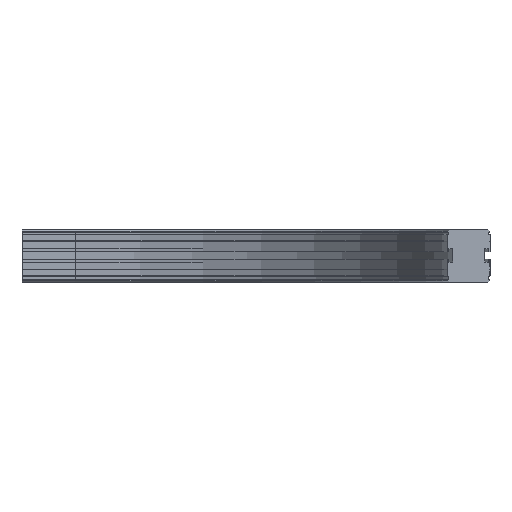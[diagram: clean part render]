
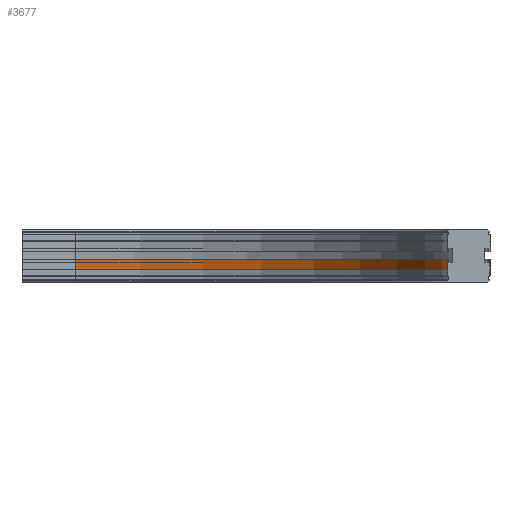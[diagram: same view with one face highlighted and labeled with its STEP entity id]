
A CAD part, front view. The second image highlights one B-rep face of the part: STEP entity #3677.
In plain terms, the highlighted cylindrical face has radius 557 mm (diameter 1114 mm), a partial arc.
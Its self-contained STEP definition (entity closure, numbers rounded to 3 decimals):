
#2334=CARTESIAN_POINT('',(637.,-589.,-58.5));
#2335=VERTEX_POINT('',#2334);
#2365=CARTESIAN_POINT('',(637.,-589.,-43.5));
#2366=VERTEX_POINT('',#2365);
#2373=CARTESIAN_POINT('',(637.,-589.,-58.5));
#2374=DIRECTION('',(0.0,0.0,1.0));
#2375=VECTOR('',#2374,15.);
#2376=LINE('',#2373,#2375);
#2377=EDGE_CURVE('',#2335,#2366,#2376,.T.);
#3634=CARTESIAN_POINT('',(80.0,-32.0,-58.5));
#3635=VERTEX_POINT('',#3634);
#3636=CARTESIAN_POINT('',(80.,-589.,-58.5));
#3637=DIRECTION('',(0.0,0.0,-1.0));
#3638=DIRECTION('',(-1.0,0.0,0.0));
#3639=AXIS2_PLACEMENT_3D('',#3636,#3637,#3638);
#3640=CIRCLE('',#3639,557.);
#3641=EDGE_CURVE('',#3635,#2335,#3640,.T.);
#3653=CARTESIAN_POINT('',(80.,-589.,-51.));
#3654=DIRECTION('',(0.0,0.0,-1.0));
#3655=DIRECTION('',(-1.0,0.0,0.0));
#3656=AXIS2_PLACEMENT_3D('',#3653,#3654,#3655);
#3657=CYLINDRICAL_SURFACE('',#3656,557.);
#3658=ORIENTED_EDGE('',*,*,#2377,.T.);
#3659=CARTESIAN_POINT('',(80.0,-32.0,-43.5));
#3660=VERTEX_POINT('',#3659);
#3661=CARTESIAN_POINT('',(80.,-589.,-43.5));
#3662=DIRECTION('',(0.0,0.0,-1.0));
#3663=DIRECTION('',(-1.0,0.0,0.0));
#3664=AXIS2_PLACEMENT_3D('',#3661,#3662,#3663);
#3665=CIRCLE('',#3664,557.);
#3666=EDGE_CURVE('',#3660,#2366,#3665,.T.);
#3667=ORIENTED_EDGE('',*,*,#3666,.F.);
#3668=CARTESIAN_POINT('',(80.0,-32.0,-58.5));
#3669=DIRECTION('',(0.0,0.0,1.0));
#3670=VECTOR('',#3669,15.);
#3671=LINE('',#3668,#3670);
#3672=EDGE_CURVE('',#3635,#3660,#3671,.T.);
#3673=ORIENTED_EDGE('',*,*,#3672,.F.);
#3674=ORIENTED_EDGE('',*,*,#3641,.T.);
#3675=EDGE_LOOP('',(#3658,#3667,#3673,#3674));
#3676=FACE_OUTER_BOUND('',#3675,.T.);
#3677=ADVANCED_FACE('',(#3676),#3657,.F.);
